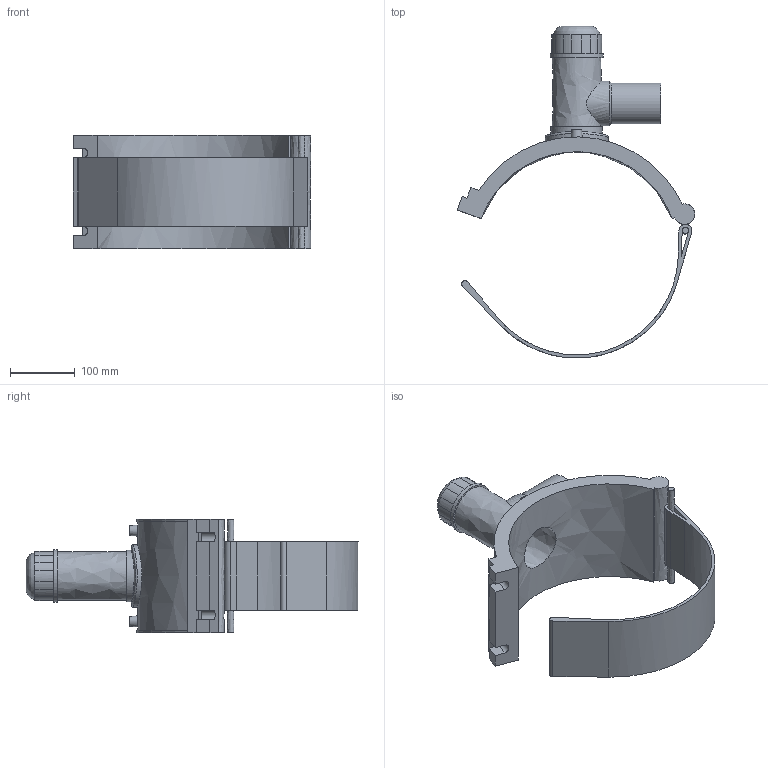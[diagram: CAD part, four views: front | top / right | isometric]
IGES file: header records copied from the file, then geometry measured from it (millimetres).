
Global section: file name: 491304315063; native system: Autodesk Inventor 2019; preprocessor: unknown; author: KIM; date: 20230323.112915; units: millimetre
Bounding box: 367.99 x 514.71 x 176 mm (x, y, z)
Volume: 2496538.8 mm3; surface area: 428050.9 mm2
Topology: 2 solids, 2 shells, 91 faces, 229 edges, 157 vertices
Faces by surface type: bspline 91
